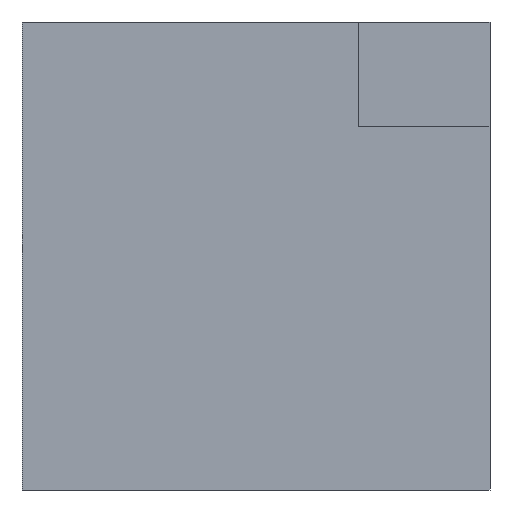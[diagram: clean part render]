
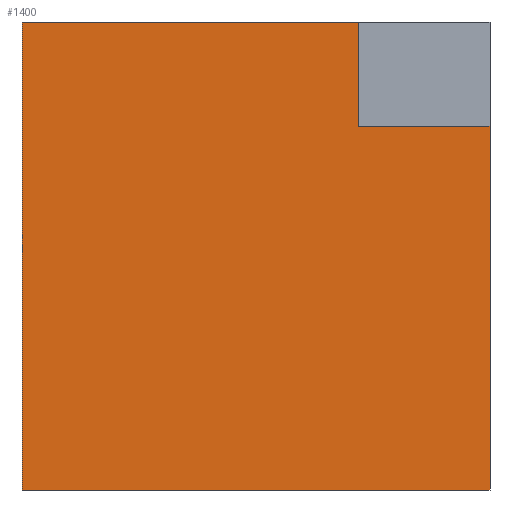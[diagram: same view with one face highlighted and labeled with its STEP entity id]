
A CAD part, front view. The second image highlights one B-rep face of the part: STEP entity #1400.
In plain terms, the highlighted planar face has unit normal (0, -1, 0).
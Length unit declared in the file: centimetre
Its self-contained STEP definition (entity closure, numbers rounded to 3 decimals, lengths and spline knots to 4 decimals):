
#84 = VERTEX_POINT ( 'NONE', #289 ) ;
#86 = EDGE_CURVE ( 'NONE', #84, #826, #955, .T. ) ;
#139 = FACE_OUTER_BOUND ( 'NONE', #1116, .T. ) ;
#140 = LINE ( 'NONE', #1486, #1686 ) ;
#163 = CARTESIAN_POINT ( 'NONE',  ( 0., 0., 0. ) ) ;
#166 = LINE ( 'NONE', #1345, #528 ) ;
#190 = ORIENTED_EDGE ( 'NONE', *, *, #86, .F. ) ;
#289 = CARTESIAN_POINT ( 'NONE',  ( 0., 0., 1000. ) ) ;
#290 = CARTESIAN_POINT ( 'NONE',  ( 1000., 0., 777.1121 ) ) ;
#295 = CARTESIAN_POINT ( 'NONE',  ( 0., 0., 1000. ) ) ;
#322 = ORIENTED_EDGE ( 'NONE', *, *, #961, .F. ) ;
#523 = VECTOR ( 'NONE', #1350, 100. ) ;
#528 = VECTOR ( 'NONE', #948, 100. ) ;
#531 = ORIENTED_EDGE ( 'NONE', *, *, #1603, .F. ) ;
#548 = DIRECTION ( 'NONE',  ( 0., 1., 0. ) ) ;
#555 = EDGE_CURVE ( 'NONE', #611, #1441, #1371, .T. ) ;
#566 = CARTESIAN_POINT ( 'NONE',  ( 719.5395, 0., 1000. ) ) ;
#611 = VERTEX_POINT ( 'NONE', #1199 ) ;
#632 = VERTEX_POINT ( 'NONE', #290 ) ;
#725 = DIRECTION ( 'NONE',  ( 1., 0., 0. ) ) ;
#805 = CARTESIAN_POINT ( 'NONE',  ( 0., 0., 1000. ) ) ;
#826 = VERTEX_POINT ( 'NONE', #566 ) ;
#832 = CARTESIAN_POINT ( 'NONE',  ( 719.5395, 0., 777.1121 ) ) ;
#947 = LINE ( 'NONE', #1071, #1470 ) ;
#948 = DIRECTION ( 'NONE',  ( 0., 0., -1. ) ) ;
#955 = LINE ( 'NONE', #805, #1244 ) ;
#959 = CARTESIAN_POINT ( 'NONE',  ( 1000., 0., 0. ) ) ;
#961 = EDGE_CURVE ( 'NONE', #1145, #632, #1236, .T. ) ;
#1071 = CARTESIAN_POINT ( 'NONE',  ( 1000., 0., 1000. ) ) ;
#1091 = PLANE ( 'NONE',  #1525 ) ;
#1108 = VECTOR ( 'NONE', #725, 100. ) ;
#1116 = EDGE_LOOP ( 'NONE', ( #1247, #322, #531, #190, #1585, #1623 ) ) ;
#1145 = VERTEX_POINT ( 'NONE', #1523 ) ;
#1199 = CARTESIAN_POINT ( 'NONE',  ( 0., 0., 0. ) ) ;
#1213 = DIRECTION ( 'NONE',  ( 0., 0., -1. ) ) ;
#1223 = DIRECTION ( 'NONE',  ( 1., 0., 0. ) ) ;
#1236 = LINE ( 'NONE', #832, #1108 ) ;
#1244 = VECTOR ( 'NONE', #1223, 100. ) ;
#1247 = ORIENTED_EDGE ( 'NONE', *, *, #1343, .F. ) ;
#1343 = EDGE_CURVE ( 'NONE', #632, #1441, #947, .T. ) ;
#1345 = CARTESIAN_POINT ( 'NONE',  ( 0., 0., 1000. ) ) ;
#1350 = DIRECTION ( 'NONE',  ( 1., 0., 0. ) ) ;
#1364 = DIRECTION ( 'NONE',  ( 0., 0., 1. ) ) ;
#1371 = LINE ( 'NONE', #163, #523 ) ;
#1400 = ADVANCED_FACE ( 'NONE', ( #139 ), #1091, .F. ) ;
#1441 = VERTEX_POINT ( 'NONE', #959 ) ;
#1470 = VECTOR ( 'NONE', #1609, 100. ) ;
#1486 = CARTESIAN_POINT ( 'NONE',  ( 719.5395, 0., 777.1121 ) ) ;
#1523 = CARTESIAN_POINT ( 'NONE',  ( 719.5395, 0., 777.1121 ) ) ;
#1525 = AXIS2_PLACEMENT_3D ( 'NONE', #295, #548, #1364 ) ;
#1585 = ORIENTED_EDGE ( 'NONE', *, *, #1674, .T. ) ;
#1603 = EDGE_CURVE ( 'NONE', #826, #1145, #140, .T. ) ;
#1609 = DIRECTION ( 'NONE',  ( 0., 0., -1. ) ) ;
#1623 = ORIENTED_EDGE ( 'NONE', *, *, #555, .T. ) ;
#1674 = EDGE_CURVE ( 'NONE', #84, #611, #166, .T. ) ;
#1686 = VECTOR ( 'NONE', #1213, 100. ) ;
